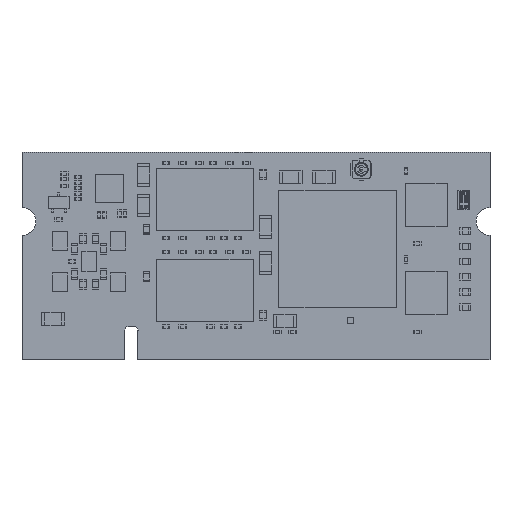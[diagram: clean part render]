
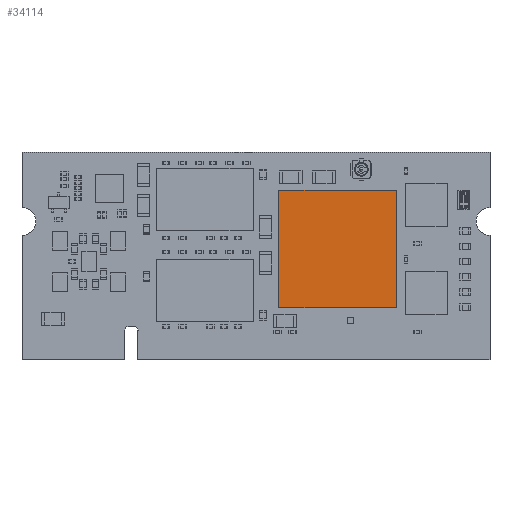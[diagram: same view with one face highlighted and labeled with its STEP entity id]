
A CAD part, top view. The second image highlights one B-rep face of the part: STEP entity #34114.
In plain terms, the highlighted planar face has unit normal (0, 0, 1).
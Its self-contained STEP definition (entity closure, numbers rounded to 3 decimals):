
#33800 = VERTEX_POINT('',#33801);
#33801 = CARTESIAN_POINT('',(-8.5,8.5,1.07));
#33808 = PLANE('',#33809);
#33809 = AXIS2_PLACEMENT_3D('',#33810,#33811,#33812);
#33810 = CARTESIAN_POINT('',(-8.5,8.5,0.));
#33811 = DIRECTION('',(1.,0.,0.));
#33812 = DIRECTION('',(0.,-1.,0.));
#33820 = PLANE('',#33821);
#33821 = AXIS2_PLACEMENT_3D('',#33822,#33823,#33824);
#33822 = CARTESIAN_POINT('',(8.5,8.5,0.));
#33823 = DIRECTION('',(0.,-1.,0.));
#33824 = DIRECTION('',(-1.,0.,0.));
#33832 = EDGE_CURVE('',#33800,#33833,#33835,.T.);
#33833 = VERTEX_POINT('',#33834);
#33834 = CARTESIAN_POINT('',(-8.5,-8.5,1.07));
#33835 = SURFACE_CURVE('',#33836,(#33840,#33847),.PCURVE_S1.);
#33836 = LINE('',#33837,#33838);
#33837 = CARTESIAN_POINT('',(-8.5,8.5,1.07));
#33838 = VECTOR('',#33839,1.);
#33839 = DIRECTION('',(0.,-1.,0.));
#33840 = PCURVE('',#33808,#33841);
#33841 = DEFINITIONAL_REPRESENTATION('',(#33842),#33846);
#33842 = LINE('',#33843,#33844);
#33843 = CARTESIAN_POINT('',(0.,-1.07));
#33844 = VECTOR('',#33845,1.);
#33845 = DIRECTION('',(1.,0.));
#33846 = ( GEOMETRIC_REPRESENTATION_CONTEXT(2) 
PARAMETRIC_REPRESENTATION_CONTEXT() REPRESENTATION_CONTEXT('2D SPACE',''
  ) );
#33847 = PCURVE('',#33848,#33853);
#33848 = PLANE('',#33849);
#33849 = AXIS2_PLACEMENT_3D('',#33850,#33851,#33852);
#33850 = CARTESIAN_POINT('',(-8.5,8.5,1.07));
#33851 = DIRECTION('',(0.,0.,-1.));
#33852 = DIRECTION('',(-1.,0.,0.));
#33853 = DEFINITIONAL_REPRESENTATION('',(#33854),#33858);
#33854 = LINE('',#33855,#33856);
#33855 = CARTESIAN_POINT('',(0.,0.));
#33856 = VECTOR('',#33857,1.);
#33857 = DIRECTION('',(0.,-1.));
#33858 = ( GEOMETRIC_REPRESENTATION_CONTEXT(2) 
PARAMETRIC_REPRESENTATION_CONTEXT() REPRESENTATION_CONTEXT('2D SPACE',''
  ) );
#33876 = PLANE('',#33877);
#33877 = AXIS2_PLACEMENT_3D('',#33878,#33879,#33880);
#33878 = CARTESIAN_POINT('',(-8.5,-8.5,0.));
#33879 = DIRECTION('',(0.,1.,0.));
#33880 = DIRECTION('',(1.,0.,0.));
#33918 = EDGE_CURVE('',#33833,#33919,#33921,.T.);
#33919 = VERTEX_POINT('',#33920);
#33920 = CARTESIAN_POINT('',(8.5,-8.5,1.07));
#33921 = SURFACE_CURVE('',#33922,(#33926,#33933),.PCURVE_S1.);
#33922 = LINE('',#33923,#33924);
#33923 = CARTESIAN_POINT('',(-8.5,-8.5,1.07));
#33924 = VECTOR('',#33925,1.);
#33925 = DIRECTION('',(1.,0.,0.));
#33926 = PCURVE('',#33876,#33927);
#33927 = DEFINITIONAL_REPRESENTATION('',(#33928),#33932);
#33928 = LINE('',#33929,#33930);
#33929 = CARTESIAN_POINT('',(0.,-1.07));
#33930 = VECTOR('',#33931,1.);
#33931 = DIRECTION('',(1.,0.));
#33932 = ( GEOMETRIC_REPRESENTATION_CONTEXT(2) 
PARAMETRIC_REPRESENTATION_CONTEXT() REPRESENTATION_CONTEXT('2D SPACE',''
  ) );
#33933 = PCURVE('',#33848,#33934);
#33934 = DEFINITIONAL_REPRESENTATION('',(#33935),#33939);
#33935 = LINE('',#33936,#33937);
#33936 = CARTESIAN_POINT('',(0.,-17.));
#33937 = VECTOR('',#33938,1.);
#33938 = DIRECTION('',(-1.,0.));
#33939 = ( GEOMETRIC_REPRESENTATION_CONTEXT(2) 
PARAMETRIC_REPRESENTATION_CONTEXT() REPRESENTATION_CONTEXT('2D SPACE',''
  ) );
#33957 = PLANE('',#33958);
#33958 = AXIS2_PLACEMENT_3D('',#33959,#33960,#33961);
#33959 = CARTESIAN_POINT('',(8.5,-8.5,0.));
#33960 = DIRECTION('',(-1.,0.,0.));
#33961 = DIRECTION('',(0.,1.,0.));
#33994 = EDGE_CURVE('',#33919,#33995,#33997,.T.);
#33995 = VERTEX_POINT('',#33996);
#33996 = CARTESIAN_POINT('',(8.5,8.5,1.07));
#33997 = SURFACE_CURVE('',#33998,(#34002,#34009),.PCURVE_S1.);
#33998 = LINE('',#33999,#34000);
#33999 = CARTESIAN_POINT('',(8.5,-8.5,1.07));
#34000 = VECTOR('',#34001,1.);
#34001 = DIRECTION('',(0.,1.,0.));
#34002 = PCURVE('',#33957,#34003);
#34003 = DEFINITIONAL_REPRESENTATION('',(#34004),#34008);
#34004 = LINE('',#34005,#34006);
#34005 = CARTESIAN_POINT('',(0.,-1.07));
#34006 = VECTOR('',#34007,1.);
#34007 = DIRECTION('',(1.,0.));
#34008 = ( GEOMETRIC_REPRESENTATION_CONTEXT(2) 
PARAMETRIC_REPRESENTATION_CONTEXT() REPRESENTATION_CONTEXT('2D SPACE',''
  ) );
#34009 = PCURVE('',#33848,#34010);
#34010 = DEFINITIONAL_REPRESENTATION('',(#34011),#34015);
#34011 = LINE('',#34012,#34013);
#34012 = CARTESIAN_POINT('',(-17.,-17.));
#34013 = VECTOR('',#34014,1.);
#34014 = DIRECTION('',(0.,1.));
#34015 = ( GEOMETRIC_REPRESENTATION_CONTEXT(2) 
PARAMETRIC_REPRESENTATION_CONTEXT() REPRESENTATION_CONTEXT('2D SPACE',''
  ) );
#34065 = EDGE_CURVE('',#33995,#33800,#34066,.T.);
#34066 = SURFACE_CURVE('',#34067,(#34071,#34078),.PCURVE_S1.);
#34067 = LINE('',#34068,#34069);
#34068 = CARTESIAN_POINT('',(8.5,8.5,1.07));
#34069 = VECTOR('',#34070,1.);
#34070 = DIRECTION('',(-1.,0.,0.));
#34071 = PCURVE('',#33820,#34072);
#34072 = DEFINITIONAL_REPRESENTATION('',(#34073),#34077);
#34073 = LINE('',#34074,#34075);
#34074 = CARTESIAN_POINT('',(0.,-1.07));
#34075 = VECTOR('',#34076,1.);
#34076 = DIRECTION('',(1.,0.));
#34077 = ( GEOMETRIC_REPRESENTATION_CONTEXT(2) 
PARAMETRIC_REPRESENTATION_CONTEXT() REPRESENTATION_CONTEXT('2D SPACE',''
  ) );
#34078 = PCURVE('',#33848,#34079);
#34079 = DEFINITIONAL_REPRESENTATION('',(#34080),#34084);
#34080 = LINE('',#34081,#34082);
#34081 = CARTESIAN_POINT('',(-17.,0.));
#34082 = VECTOR('',#34083,1.);
#34083 = DIRECTION('',(1.,0.));
#34084 = ( GEOMETRIC_REPRESENTATION_CONTEXT(2) 
PARAMETRIC_REPRESENTATION_CONTEXT() REPRESENTATION_CONTEXT('2D SPACE',''
  ) );
#34114 = ADVANCED_FACE('',(#34115),#33848,.F.);
#34115 = FACE_BOUND('',#34116,.T.);
#34116 = EDGE_LOOP('',(#34117,#34118,#34119,#34120));
#34117 = ORIENTED_EDGE('',*,*,#33832,.T.);
#34118 = ORIENTED_EDGE('',*,*,#33918,.T.);
#34119 = ORIENTED_EDGE('',*,*,#33994,.T.);
#34120 = ORIENTED_EDGE('',*,*,#34065,.T.);
